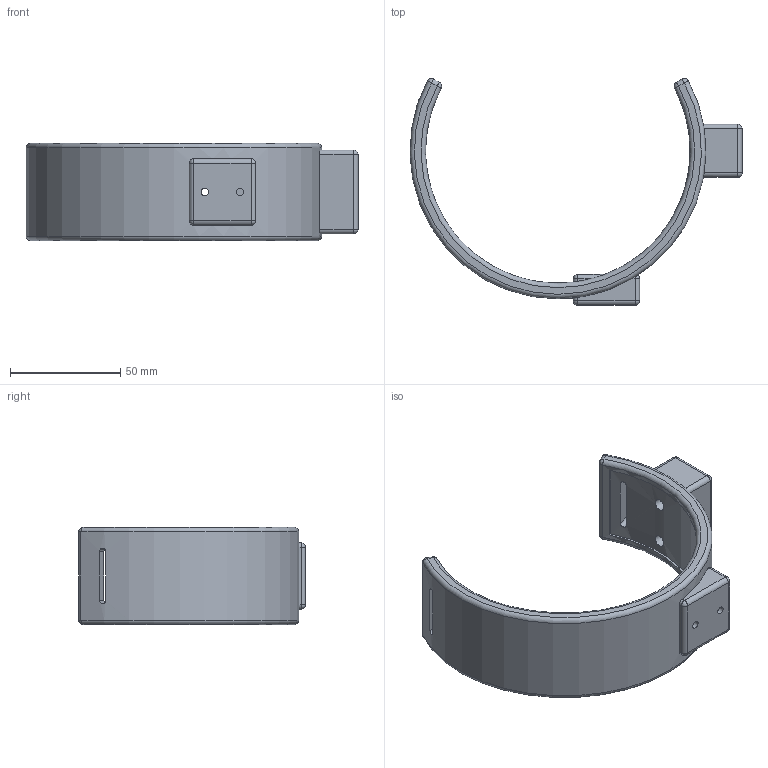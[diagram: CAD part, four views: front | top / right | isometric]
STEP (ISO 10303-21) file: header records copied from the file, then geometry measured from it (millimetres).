
FILE_DESCRIPTION(('Open CASCADE Model'),'2;1');
FILE_NAME('Open CASCADE Shape Model','2026-11-04T08:45:14',('Author'),( 'Open CASCADE'),'Open CASCADE STEP processor 7.8','Open CASCADE 7.8' ,'Unknown');
FILE_SCHEMA(('AUTOMOTIVE_DESIGN { 1 0 10303 214 1 1 1 1 }'));
Length unit declared in the file: millimetre
Products named in the file (1): Open CASCADE STEP translator 7.8 6
Bounding box: 150.38 x 102.75 x 44 mm (x, y, z)
Volume: 92897.6 mm3; surface area: 31573.5 mm2
Topology: 1 solids, 1 shells, 100 faces, 237 edges, 124 vertices
Faces by surface type: cylinder 45, plane 27, sphere 24, torus 4
Full cylindrical faces by diameter (mm): 3.4 x2, 5.5 x2
Entity records: 7229 total; most frequent: CARTESIAN_POINT 2775, DIRECTION 851, LINE 455, VECTOR 455, ORIENTED_EDGE 434, PCURVE 434, DEFINITIONAL_REPRESENTATION 434, EDGE_CURVE 217
